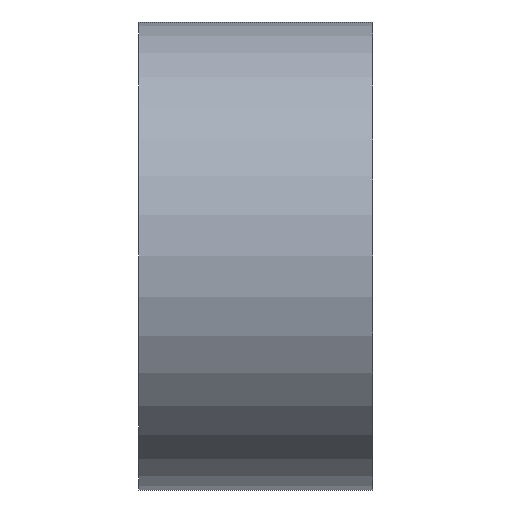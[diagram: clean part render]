
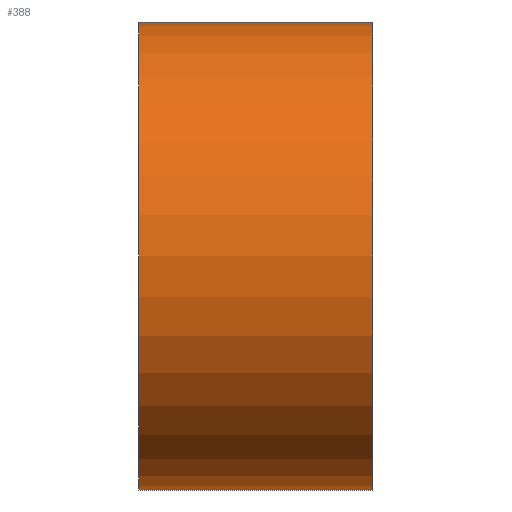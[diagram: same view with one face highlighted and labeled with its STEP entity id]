
A CAD part, front view. The second image highlights one B-rep face of the part: STEP entity #388.
In plain terms, the highlighted cylindrical face has radius 60 mm (diameter 120 mm), a full revolution.
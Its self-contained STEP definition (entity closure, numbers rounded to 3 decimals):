
#22 = VERTEX_POINT('',#23);
#23 = CARTESIAN_POINT('',(882.5,-301.266,1135.));
#32 = PLANE('',#33);
#33 = AXIS2_PLACEMENT_3D('',#34,#35,#36);
#34 = CARTESIAN_POINT('',(882.5,-350.,1065.));
#35 = DIRECTION('',(1.,0.,-0.));
#36 = DIRECTION('',(0.,0.,1.));
#44 = PLANE('',#45);
#45 = AXIS2_PLACEMENT_3D('',#46,#47,#48);
#46 = CARTESIAN_POINT('',(882.5,-350.,1135.));
#47 = DIRECTION('',(0.,0.,1.));
#48 = DIRECTION('',(1.,0.,-0.));
#56 = EDGE_CURVE('',#57,#22,#59,.T.);
#57 = VERTEX_POINT('',#58);
#58 = CARTESIAN_POINT('',(882.5,-301.266,1065.));
#59 = SURFACE_CURVE('',#60,(#65,#72),.PCURVE_S1.);
#60 = CIRCLE('',#61,60.);
#61 = AXIS2_PLACEMENT_3D('',#62,#63,#64);
#62 = CARTESIAN_POINT('',(882.5,-350.,1100.));
#63 = DIRECTION('',(1.,0.,0.));
#64 = DIRECTION('',(-0.,0.,1.));
#65 = PCURVE('',#32,#66);
#66 = DEFINITIONAL_REPRESENTATION('',(#67),#71);
#67 = CIRCLE('',#68,60.);
#68 = AXIS2_PLACEMENT_2D('',#69,#70);
#69 = CARTESIAN_POINT('',(35.,0.));
#70 = DIRECTION('',(1.,0.));
#71 = ( GEOMETRIC_REPRESENTATION_CONTEXT(2) 
PARAMETRIC_REPRESENTATION_CONTEXT() REPRESENTATION_CONTEXT('2D SPACE',''
  ) );
#72 = PCURVE('',#73,#78);
#73 = CYLINDRICAL_SURFACE('',#74,60.);
#74 = AXIS2_PLACEMENT_3D('',#75,#76,#77);
#75 = CARTESIAN_POINT('',(870.,-350.,1100.));
#76 = DIRECTION('',(1.,0.,0.));
#77 = DIRECTION('',(-0.,0.,1.));
#78 = DEFINITIONAL_REPRESENTATION('',(#79),#83);
#79 = LINE('',#80,#81);
#80 = CARTESIAN_POINT('',(0.,12.5));
#81 = VECTOR('',#82,1.);
#82 = DIRECTION('',(1.,0.));
#83 = ( GEOMETRIC_REPRESENTATION_CONTEXT(2) 
PARAMETRIC_REPRESENTATION_CONTEXT() REPRESENTATION_CONTEXT('2D SPACE',''
  ) );
#101 = PLANE('',#102);
#102 = AXIS2_PLACEMENT_3D('',#103,#104,#105);
#103 = CARTESIAN_POINT('',(882.5,-350.,1065.));
#104 = DIRECTION('',(0.,0.,1.));
#105 = DIRECTION('',(1.,0.,-0.));
#144 = EDGE_CURVE('',#22,#145,#147,.T.);
#145 = VERTEX_POINT('',#146);
#146 = CARTESIAN_POINT('',(917.5,-301.266,1135.));
#147 = SURFACE_CURVE('',#148,(#152,#158),.PCURVE_S1.);
#148 = LINE('',#149,#150);
#149 = CARTESIAN_POINT('',(870.,-301.266,1135.));
#150 = VECTOR('',#151,1.);
#151 = DIRECTION('',(1.,0.,0.));
#152 = PCURVE('',#44,#153);
#153 = DEFINITIONAL_REPRESENTATION('',(#154),#157);
#154 = B_SPLINE_CURVE_WITH_KNOTS('',1,(#155,#156),.UNSPECIFIED.,.F.,.F.,
  (2,2),(9.,51.),.PIECEWISE_BEZIER_KNOTS.);
#155 = CARTESIAN_POINT('',(-3.5,48.734));
#156 = CARTESIAN_POINT('',(38.5,48.734));
#157 = ( GEOMETRIC_REPRESENTATION_CONTEXT(2) 
PARAMETRIC_REPRESENTATION_CONTEXT() REPRESENTATION_CONTEXT('2D SPACE',''
  ) );
#158 = PCURVE('',#73,#159);
#159 = DEFINITIONAL_REPRESENTATION('',(#160),#163);
#160 = B_SPLINE_CURVE_WITH_KNOTS('',1,(#161,#162),.UNSPECIFIED.,.F.,.F.,
  (2,2),(9.,51.),.PIECEWISE_BEZIER_KNOTS.);
#161 = CARTESIAN_POINT('',(5.335,9.));
#162 = CARTESIAN_POINT('',(5.335,51.));
#163 = ( GEOMETRIC_REPRESENTATION_CONTEXT(2) 
PARAMETRIC_REPRESENTATION_CONTEXT() REPRESENTATION_CONTEXT('2D SPACE',''
  ) );
#181 = PLANE('',#182);
#182 = AXIS2_PLACEMENT_3D('',#183,#184,#185);
#183 = CARTESIAN_POINT('',(917.5,-350.,1065.));
#184 = DIRECTION('',(1.,0.,-0.));
#185 = DIRECTION('',(0.,0.,1.));
#346 = EDGE_CURVE('',#57,#347,#349,.T.);
#347 = VERTEX_POINT('',#348);
#348 = CARTESIAN_POINT('',(917.5,-301.266,1065.));
#349 = SURFACE_CURVE('',#350,(#354,#360),.PCURVE_S1.);
#350 = LINE('',#351,#352);
#351 = CARTESIAN_POINT('',(870.,-301.266,1065.));
#352 = VECTOR('',#353,1.);
#353 = DIRECTION('',(1.,0.,0.));
#354 = PCURVE('',#101,#355);
#355 = DEFINITIONAL_REPRESENTATION('',(#356),#359);
#356 = B_SPLINE_CURVE_WITH_KNOTS('',1,(#357,#358),.UNSPECIFIED.,.F.,.F.,
  (2,2),(9.,51.),.PIECEWISE_BEZIER_KNOTS.);
#357 = CARTESIAN_POINT('',(-3.5,48.734));
#358 = CARTESIAN_POINT('',(38.5,48.734));
#359 = ( GEOMETRIC_REPRESENTATION_CONTEXT(2) 
PARAMETRIC_REPRESENTATION_CONTEXT() REPRESENTATION_CONTEXT('2D SPACE',''
  ) );
#360 = PCURVE('',#73,#361);
#361 = DEFINITIONAL_REPRESENTATION('',(#362),#365);
#362 = B_SPLINE_CURVE_WITH_KNOTS('',1,(#363,#364),.UNSPECIFIED.,.F.,.F.,
  (2,2),(9.,51.),.PIECEWISE_BEZIER_KNOTS.);
#363 = CARTESIAN_POINT('',(4.09,9.));
#364 = CARTESIAN_POINT('',(4.09,51.));
#365 = ( GEOMETRIC_REPRESENTATION_CONTEXT(2) 
PARAMETRIC_REPRESENTATION_CONTEXT() REPRESENTATION_CONTEXT('2D SPACE',''
  ) );
#388 = ADVANCED_FACE('',(#389,#471),#73,.T.);
#389 = FACE_BOUND('',#390,.T.);
#390 = EDGE_LOOP('',(#391,#416,#443,#444));
#391 = ORIENTED_EDGE('',*,*,#392,.T.);
#392 = EDGE_CURVE('',#393,#395,#397,.T.);
#393 = VERTEX_POINT('',#394);
#394 = CARTESIAN_POINT('',(870.,-350.,1160.));
#395 = VERTEX_POINT('',#396);
#396 = CARTESIAN_POINT('',(930.,-350.,1160.));
#397 = SEAM_CURVE('',#398,(#402,#409),.PCURVE_S1.);
#398 = LINE('',#399,#400);
#399 = CARTESIAN_POINT('',(870.,-350.,1160.));
#400 = VECTOR('',#401,1.);
#401 = DIRECTION('',(1.,0.,0.));
#402 = PCURVE('',#73,#403);
#403 = DEFINITIONAL_REPRESENTATION('',(#404),#408);
#404 = LINE('',#405,#406);
#405 = CARTESIAN_POINT('',(6.283,-0.));
#406 = VECTOR('',#407,1.);
#407 = DIRECTION('',(0.,1.));
#408 = ( GEOMETRIC_REPRESENTATION_CONTEXT(2) 
PARAMETRIC_REPRESENTATION_CONTEXT() REPRESENTATION_CONTEXT('2D SPACE',''
  ) );
#409 = PCURVE('',#73,#410);
#410 = DEFINITIONAL_REPRESENTATION('',(#411),#415);
#411 = LINE('',#412,#413);
#412 = CARTESIAN_POINT('',(0.,-0.));
#413 = VECTOR('',#414,1.);
#414 = DIRECTION('',(0.,1.));
#415 = ( GEOMETRIC_REPRESENTATION_CONTEXT(2) 
PARAMETRIC_REPRESENTATION_CONTEXT() REPRESENTATION_CONTEXT('2D SPACE',''
  ) );
#416 = ORIENTED_EDGE('',*,*,#417,.F.);
#417 = EDGE_CURVE('',#395,#395,#418,.T.);
#418 = SURFACE_CURVE('',#419,(#424,#431),.PCURVE_S1.);
#419 = CIRCLE('',#420,60.);
#420 = AXIS2_PLACEMENT_3D('',#421,#422,#423);
#421 = CARTESIAN_POINT('',(930.,-350.,1100.));
#422 = DIRECTION('',(1.,0.,0.));
#423 = DIRECTION('',(-0.,0.,1.));
#424 = PCURVE('',#73,#425);
#425 = DEFINITIONAL_REPRESENTATION('',(#426),#430);
#426 = LINE('',#427,#428);
#427 = CARTESIAN_POINT('',(0.,60.));
#428 = VECTOR('',#429,1.);
#429 = DIRECTION('',(1.,0.));
#430 = ( GEOMETRIC_REPRESENTATION_CONTEXT(2) 
PARAMETRIC_REPRESENTATION_CONTEXT() REPRESENTATION_CONTEXT('2D SPACE',''
  ) );
#431 = PCURVE('',#432,#437);
#432 = PLANE('',#433);
#433 = AXIS2_PLACEMENT_3D('',#434,#435,#436);
#434 = CARTESIAN_POINT('',(930.,-350.,1100.));
#435 = DIRECTION('',(1.,0.,0.));
#436 = DIRECTION('',(-0.,0.,1.));
#437 = DEFINITIONAL_REPRESENTATION('',(#438),#442);
#438 = CIRCLE('',#439,60.);
#439 = AXIS2_PLACEMENT_2D('',#440,#441);
#440 = CARTESIAN_POINT('',(0.,0.));
#441 = DIRECTION('',(1.,0.));
#442 = ( GEOMETRIC_REPRESENTATION_CONTEXT(2) 
PARAMETRIC_REPRESENTATION_CONTEXT() REPRESENTATION_CONTEXT('2D SPACE',''
  ) );
#443 = ORIENTED_EDGE('',*,*,#392,.F.);
#444 = ORIENTED_EDGE('',*,*,#445,.T.);
#445 = EDGE_CURVE('',#393,#393,#446,.T.);
#446 = SURFACE_CURVE('',#447,(#452,#459),.PCURVE_S1.);
#447 = CIRCLE('',#448,60.);
#448 = AXIS2_PLACEMENT_3D('',#449,#450,#451);
#449 = CARTESIAN_POINT('',(870.,-350.,1100.));
#450 = DIRECTION('',(1.,0.,0.));
#451 = DIRECTION('',(-0.,0.,1.));
#452 = PCURVE('',#73,#453);
#453 = DEFINITIONAL_REPRESENTATION('',(#454),#458);
#454 = LINE('',#455,#456);
#455 = CARTESIAN_POINT('',(0.,0.));
#456 = VECTOR('',#457,1.);
#457 = DIRECTION('',(1.,0.));
#458 = ( GEOMETRIC_REPRESENTATION_CONTEXT(2) 
PARAMETRIC_REPRESENTATION_CONTEXT() REPRESENTATION_CONTEXT('2D SPACE',''
  ) );
#459 = PCURVE('',#460,#465);
#460 = PLANE('',#461);
#461 = AXIS2_PLACEMENT_3D('',#462,#463,#464);
#462 = CARTESIAN_POINT('',(870.,-350.,1100.));
#463 = DIRECTION('',(1.,0.,0.));
#464 = DIRECTION('',(-0.,0.,1.));
#465 = DEFINITIONAL_REPRESENTATION('',(#466),#470);
#466 = CIRCLE('',#467,60.);
#467 = AXIS2_PLACEMENT_2D('',#468,#469);
#468 = CARTESIAN_POINT('',(0.,0.));
#469 = DIRECTION('',(1.,0.));
#470 = ( GEOMETRIC_REPRESENTATION_CONTEXT(2) 
PARAMETRIC_REPRESENTATION_CONTEXT() REPRESENTATION_CONTEXT('2D SPACE',''
  ) );
#471 = FACE_BOUND('',#472,.T.);
#472 = EDGE_LOOP('',(#473,#474,#475,#497));
#473 = ORIENTED_EDGE('',*,*,#56,.F.);
#474 = ORIENTED_EDGE('',*,*,#346,.T.);
#475 = ORIENTED_EDGE('',*,*,#476,.T.);
#476 = EDGE_CURVE('',#347,#145,#477,.T.);
#477 = SURFACE_CURVE('',#478,(#483,#490),.PCURVE_S1.);
#478 = CIRCLE('',#479,60.);
#479 = AXIS2_PLACEMENT_3D('',#480,#481,#482);
#480 = CARTESIAN_POINT('',(917.5,-350.,1100.));
#481 = DIRECTION('',(1.,0.,0.));
#482 = DIRECTION('',(-0.,0.,1.));
#483 = PCURVE('',#73,#484);
#484 = DEFINITIONAL_REPRESENTATION('',(#485),#489);
#485 = LINE('',#486,#487);
#486 = CARTESIAN_POINT('',(0.,47.5));
#487 = VECTOR('',#488,1.);
#488 = DIRECTION('',(1.,0.));
#489 = ( GEOMETRIC_REPRESENTATION_CONTEXT(2) 
PARAMETRIC_REPRESENTATION_CONTEXT() REPRESENTATION_CONTEXT('2D SPACE',''
  ) );
#490 = PCURVE('',#181,#491);
#491 = DEFINITIONAL_REPRESENTATION('',(#492),#496);
#492 = CIRCLE('',#493,60.);
#493 = AXIS2_PLACEMENT_2D('',#494,#495);
#494 = CARTESIAN_POINT('',(35.,0.));
#495 = DIRECTION('',(1.,0.));
#496 = ( GEOMETRIC_REPRESENTATION_CONTEXT(2) 
PARAMETRIC_REPRESENTATION_CONTEXT() REPRESENTATION_CONTEXT('2D SPACE',''
  ) );
#497 = ORIENTED_EDGE('',*,*,#144,.F.);
